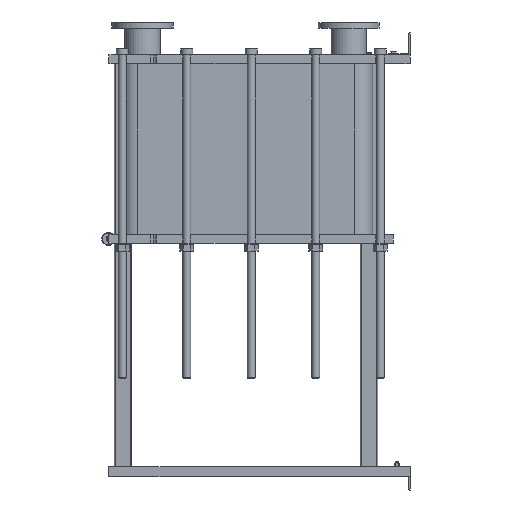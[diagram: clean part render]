
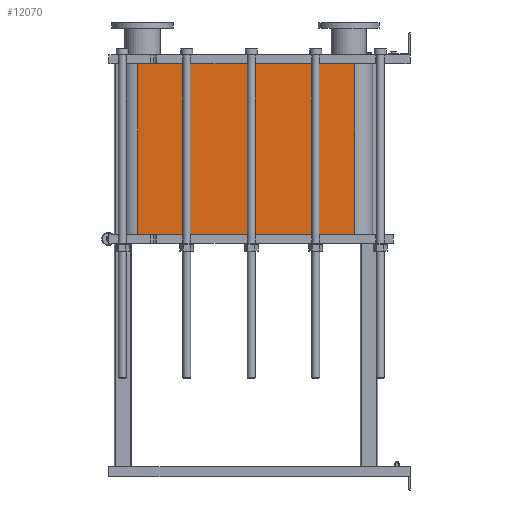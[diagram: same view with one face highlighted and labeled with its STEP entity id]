
A CAD part, left-side view. The second image highlights one B-rep face of the part: STEP entity #12070.
In plain terms, the highlighted planar face has unit normal (-1, 0, 0).
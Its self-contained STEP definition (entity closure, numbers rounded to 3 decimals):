
#1064=LINE('',#21140,#2164);
#1065=LINE('',#21144,#2165);
#1066=LINE('',#21146,#2166);
#1067=LINE('',#21147,#2167);
#2164=VECTOR('',#15790,10.);
#2165=VECTOR('',#15795,10.);
#2166=VECTOR('',#15796,10.);
#2167=VECTOR('',#15797,10.);
#3304=FACE_OUTER_BOUND('',#4091,.T.);
#4091=EDGE_LOOP('',(#9793,#9794,#9795,#9796));
#5677=VERTEX_POINT('',#21137);
#5678=VERTEX_POINT('',#21139);
#5679=VERTEX_POINT('',#21143);
#5680=VERTEX_POINT('',#21145);
#7118=EDGE_CURVE('',#5678,#5677,#1064,.T.);
#7120=EDGE_CURVE('',#5677,#5679,#1065,.T.);
#7121=EDGE_CURVE('',#5680,#5679,#1066,.T.);
#7122=EDGE_CURVE('',#5680,#5678,#1067,.T.);
#9793=ORIENTED_EDGE('',*,*,#7120,.T.);
#9794=ORIENTED_EDGE('',*,*,#7121,.F.);
#9795=ORIENTED_EDGE('',*,*,#7122,.T.);
#9796=ORIENTED_EDGE('',*,*,#7118,.T.);
#11441=PLANE('',#13191);
#12070=ADVANCED_FACE('',(#3304),#11441,.T.);
#13191=AXIS2_PLACEMENT_3D('',#21142,#15793,#15794);
#15790=DIRECTION('',(0.,0.,-1.));
#15793=DIRECTION('center_axis',(-1.,0.,0.));
#15794=DIRECTION('ref_axis',(0.,1.,0.));
#15795=DIRECTION('',(0.,-1.,0.));
#15796=DIRECTION('',(0.,0.,-1.));
#15797=DIRECTION('',(0.,1.,0.));
#21137=CARTESIAN_POINT('',(-248.152,1243.818,-779.7));
#21139=CARTESIAN_POINT('',(-248.152,1243.818,0.));
#21140=CARTESIAN_POINT('',(-248.152,1243.818,0.));
#21142=CARTESIAN_POINT('Origin',(-248.152,251.818,0.));
#21143=CARTESIAN_POINT('',(-248.152,251.818,-779.7));
#21144=CARTESIAN_POINT('',(-248.152,499.818,-779.7));
#21145=CARTESIAN_POINT('',(-248.152,251.818,0.));
#21146=CARTESIAN_POINT('',(-248.152,251.818,0.));
#21147=CARTESIAN_POINT('',(-248.152,251.818,0.));
